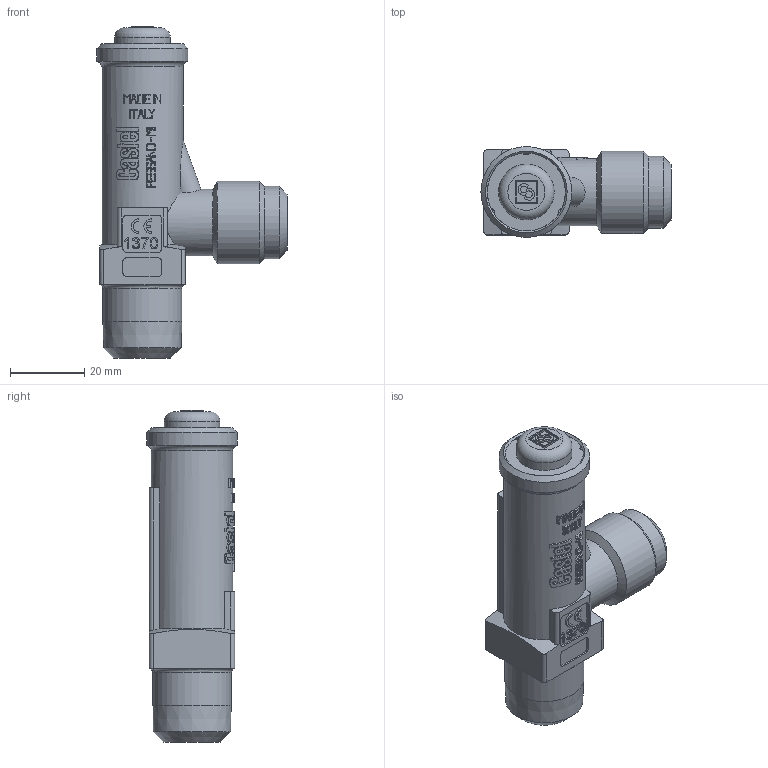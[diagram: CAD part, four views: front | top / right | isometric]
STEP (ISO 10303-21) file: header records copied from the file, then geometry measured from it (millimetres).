
FILE_DESCRIPTION(/* description */ (''),/* implementation_level */ '2;1');
FILE_NAME(/* name */ '3060_45C',/* time_stamp */ '2009-03-25T09:28:29+01:00',/* author */ (''),/* organization */ (''),/* preprocessor_version */ 'ST-DEVELOPER v9',/* originating_system */ 'UGS - NX 4.0',/* authorisation */ '');
FILE_SCHEMA (('CONFIG_CONTROL_DESIGN'));
Length unit declared in the file: millimetre
Products named in the file (1): FColA9F81wjv
Bounding box: 51.25 x 24.5 x 89.5 mm (x, y, z)
Volume: 30402.9 mm3; surface area: 20234.3 mm2
Topology: 2 solids, 2 shells, 800 faces, 2147 edges, 1412 vertices
Faces by surface type: plane 520, cylinder 160, extrusion 64, cone 43, torus 7, bspline 4, sphere 2
Full cylindrical faces by diameter (mm): 1.5 x1, 2 x1, 3 x1, 8.6 x1, 8.8 x1, 9.5 x1, 11 x3, 14 x2, 14.9 x1, 15 x1, 15.05 x1, 15.5 x1, 16.5 x1, 17.1 x2, 18 x1, 19.5 x1, 21.3 x1, 22 x1, 22.225 x1, 23.1 x1, 24.5 x1
Entity records: 29943 total; most frequent: CARTESIAN_POINT 10480, ORIENTED_EDGE 4122, DIRECTION 3738, EDGE_CURVE 2061, VERTEX_POINT 1388, VECTOR 1282, AXIS2_PLACEMENT_3D 1228, LINE 1218
